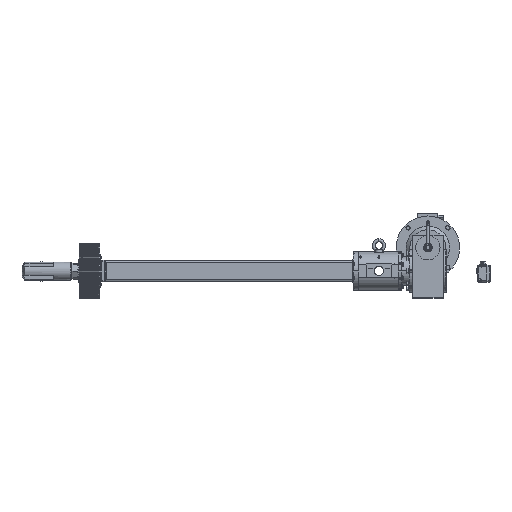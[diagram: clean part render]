
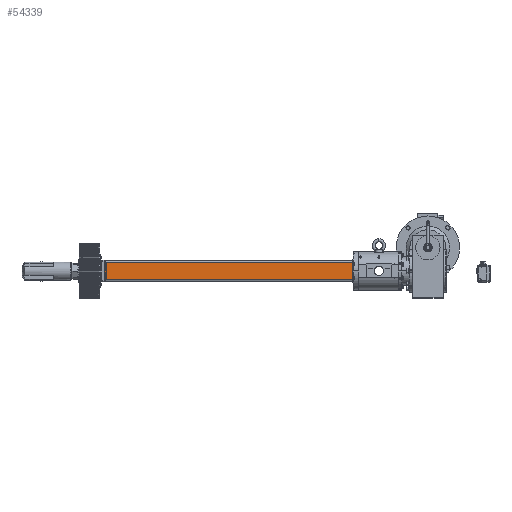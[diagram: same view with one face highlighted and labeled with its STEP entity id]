
A CAD part, top view. The second image highlights one B-rep face of the part: STEP entity #54339.
In plain terms, the highlighted planar face has unit normal (0, 0, 1).
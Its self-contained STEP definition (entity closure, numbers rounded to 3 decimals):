
#4009 = VERTEX_POINT ( 'NONE', #49220 ) ;
#4035 = VERTEX_POINT ( 'NONE', #49244 ) ;
#4053 = VERTEX_POINT ( 'NONE', #49262 ) ;
#4089 = VERTEX_POINT ( 'NONE', #49293 ) ;
#13402 = EDGE_LOOP ( 'NONE', ( #18581, #18582, #18585, #18587 ) ) ;
#14838 = CARTESIAN_POINT ( 'NONE',  ( 1180., 40., 50. ) ) ;
#14839 = DIRECTION ( 'NONE',  ( 0., -1., 0. ) ) ;
#14907 = CARTESIAN_POINT ( 'NONE',  ( 1180., -40., 50. ) ) ;
#14909 = DIRECTION ( 'NONE',  ( -1., 0., 0. ) ) ;
#14932 = DIRECTION ( 'NONE',  ( -1., 0., 0. ) ) ;
#14935 = CARTESIAN_POINT ( 'NONE',  ( 1180., 40., 50. ) ) ;
#14938 = CARTESIAN_POINT ( 'NONE',  ( 2., 40., 50. ) ) ;
#14943 = DIRECTION ( 'NONE',  ( 0., -1., 0. ) ) ;
#18581 = ORIENTED_EDGE ( 'NONE', *, *, #51370, .T. ) ;
#18582 = ORIENTED_EDGE ( 'NONE', *, *, #51371, .T. ) ;
#18585 = ORIENTED_EDGE ( 'NONE', *, *, #51356, .F. ) ;
#18587 = ORIENTED_EDGE ( 'NONE', *, *, #51331, .F. ) ;
#37804 = FACE_OUTER_BOUND ( 'NONE', #13402, .T. ) ;
#40986 = AXIS2_PLACEMENT_3D ( 'NONE', #56114, #56122, #56123 ) ;
#49220 = CARTESIAN_POINT ( 'NONE',  ( 1180., -40., 50. ) ) ;
#49244 = CARTESIAN_POINT ( 'NONE',  ( 1180., 40., 50. ) ) ;
#49262 = CARTESIAN_POINT ( 'NONE',  ( 2., -40., 50. ) ) ;
#49293 = CARTESIAN_POINT ( 'NONE',  ( 2., 40., 50. ) ) ;
#51331 = EDGE_CURVE ( 'NONE', #4035, #4009, #59922, .T. ) ;
#51356 = EDGE_CURVE ( 'NONE', #4009, #4053, #59959, .T. ) ;
#51370 = EDGE_CURVE ( 'NONE', #4035, #4089, #59984, .T. ) ;
#51371 = EDGE_CURVE ( 'NONE', #4089, #4053, #59982, .T. ) ;
#54339 = ADVANCED_FACE ( 'NONE', ( #37804 ), #56119, .F. ) ;
#56114 = CARTESIAN_POINT ( 'NONE',  ( 1180., 40., 50. ) ) ;
#56119 = PLANE ( 'NONE',  #40986 ) ;
#56122 = DIRECTION ( 'NONE',  ( 0., 0., -1. ) ) ;
#56123 = DIRECTION ( 'NONE',  ( -1., 0., 0. ) ) ;
#59922 = LINE ( 'NONE', #14838, #59924 ) ;
#59924 = VECTOR ( 'NONE', #14839, 1000. ) ;
#59959 = LINE ( 'NONE', #14907, #59962 ) ;
#59962 = VECTOR ( 'NONE', #14909, 1000. ) ;
#59982 = LINE ( 'NONE', #14938, #59988 ) ;
#59984 = LINE ( 'NONE', #14935, #59986 ) ;
#59986 = VECTOR ( 'NONE', #14932, 1000. ) ;
#59988 = VECTOR ( 'NONE', #14943, 1000. ) ;
